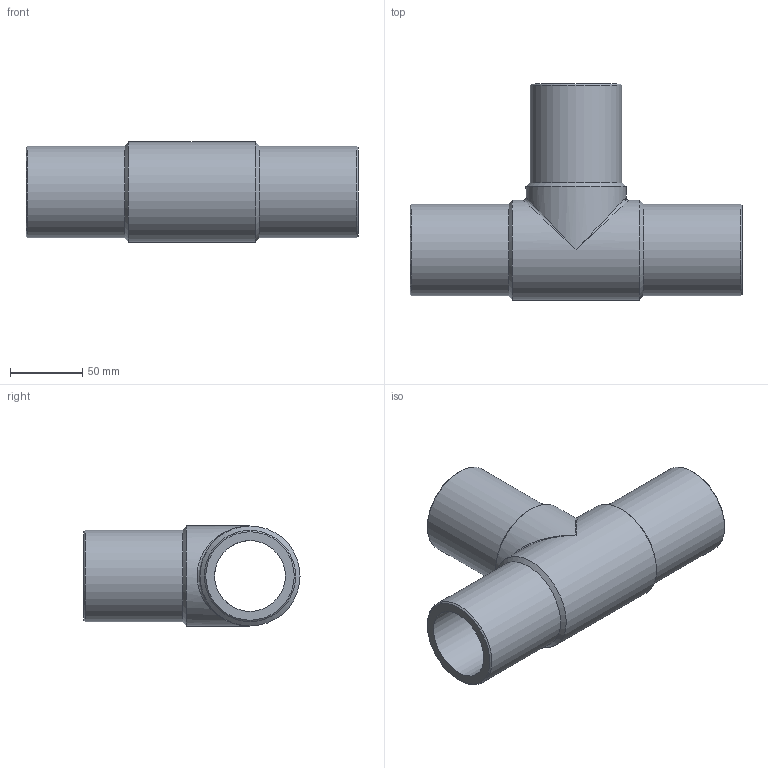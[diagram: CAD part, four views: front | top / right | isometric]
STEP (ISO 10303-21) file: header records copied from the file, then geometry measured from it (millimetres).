
FILE_DESCRIPTION(/* description */ ('Unknown'),/* implementation_level */ '2;1');
FILE_NAME(/* name */ 'TP063G',/* time_stamp */ '2021-08-12T17:44:06+02:00',/* author */ ('Unknown'),/* organization */ ('Unknown'),/* preprocessor_version */ 'ST-DEVELOPER v16.7',/* originating_system */ 'Solid Edge',/* authorisation */ 'Unknown');
FILE_SCHEMA (('AUTOMOTIVE_DESIGN {1 0 10303 214 3 1 1}'));
Length unit declared in the file: millimetre
Products named in the file (1): TP063G
Bounding box: 229 x 149 x 69 mm (x, y, z)
Volume: 441722.7 mm3; surface area: 113112.4 mm2
Topology: 1 solids, 1 shells, 18 faces, 44 edges, 23 vertices
Faces by surface type: cylinder 7, cone 6, plane 3, bspline 2
Full cylindrical faces by diameter (mm): 48.8 x2, 63 x3, 69 x2
Entity records: 504 total; most frequent: CARTESIAN_POINT 147, DIRECTION 76, ORIENTED_EDGE 42, AXIS2_PLACEMENT_3D 38, EDGE_LOOP 36, FACE_BOUND 36, EDGE_CURVE 21, VERTEX_POINT 19
